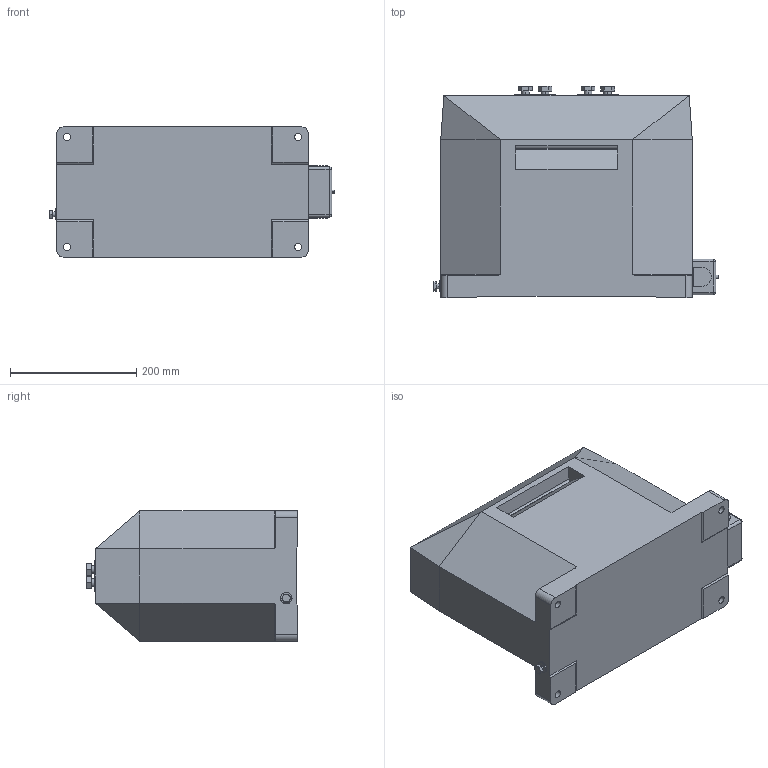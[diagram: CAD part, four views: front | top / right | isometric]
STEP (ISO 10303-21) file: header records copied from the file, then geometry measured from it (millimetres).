
FILE_DESCRIPTION (( 'STEP AP214' ), '1' );
FILE_NAME ('24305-022_AM-40b_750-1250A.STEP', '2025-10-07T08:13:28', ( '' ), ( '' ), 'SwSTEP 2.0', 'SolidWorks 2020', '' );
FILE_SCHEMA (( 'AUTOMOTIVE_DESIGN' ));
Length unit declared in the file: millimetre
Products named in the file (1): 24305-022_AM-40b_750-1250A
Bounding box: 452 x 334.5 x 206 mm (x, y, z)
Volume: 21568354.7 mm3; surface area: 525184.8 mm2
Topology: 1 solids, 1 shells, 292 faces, 763 edges, 482 vertices
Faces by surface type: plane 162, cylinder 100, cone 14, sphere 8, torus 4, bspline 4
Entity records: 10773 total; most frequent: CARTESIAN_POINT 2322, ORIENTED_EDGE 1510, DIRECTION 1453, EDGE_CURVE 755, AXIS2_PLACEMENT_3D 486, VERTEX_POINT 482, LINE 481, VECTOR 481
